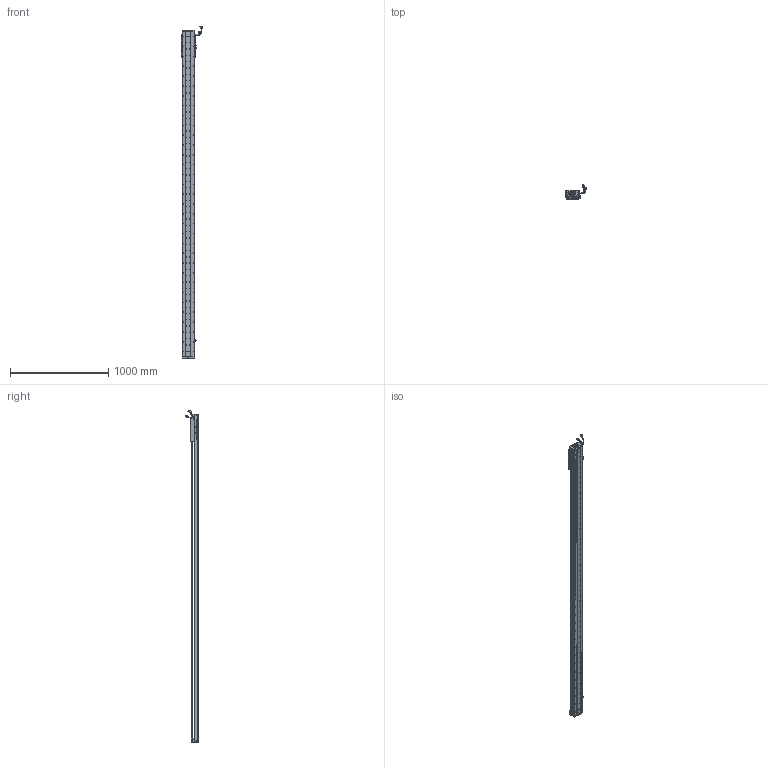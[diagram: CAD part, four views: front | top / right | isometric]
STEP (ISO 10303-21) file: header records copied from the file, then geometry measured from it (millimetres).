
FILE_DESCRIPTION (( 'STEP AP203' ), '1' );
FILE_NAME ('Z3-RY120D-1-L500-B-K.SLDASM_3000.step', '2021-05-17T05:52:10', ( '盈信电脑' ), ( '东莞市道滘镇水果街19号' ), 'SwSTEP 2.0', 'SolidWorks 2016', '' );
FILE_SCHEMA (( 'CONFIG_CONTROL_DESIGN' ));
Length unit declared in the file: millimetre
Products named in the file (37): 140雄赽晤鎢ん堤盄; SCALE-Part-2; Z3-RY120铝滑块（21款）; COVER; 榋妏寠巭燃_暯_M2_2; SCREW-M1.6-1; HARNESS; Z-RY120D詩湍奻揤裔; LABEL; 覜茼ん672; SCREW-M1.6; HARNESS-Part-1; SCREW-M1.7; 140蚥薯蝶輸; SCREW-M1.6-3; Z-120詩湍傷裔啣; SEAL-Part-1; 672嫖萇羲壽假蚾釱; HARNESS-Part-2; Z3-RY120D-1-L500-B-K.SLDASM_3000; Z3-RY120-500-倰第菁釱_3000; PBU_SHEET; COVER-Part-1; 120-Z-臏賑輸盄裔(21遴); PSLH080_PSLF2; SCALE-Part-1; SEAL; Z-RY120D詩湍狟揤裔; SCREW-M1.6-2; 080黍杅芛假蚾釱21遴; SHIELDPLATE; HOLDER0; RY100FB-遵嫖萇覜茼え; Z3-RY120-L500詩湍100mm遵_3000; SCREW-M1.7-1; SCALE; LABEL-Part-1
Assembly tree (43 placements, depth 4):
  Z3-RY120D-1-L500-B-K.SLDASM_3000
    Z3-RY120-500-倰第菁釱_3000
    覜茼ん672  x3
    672嫖萇羲壽假蚾釱  x2
    Z3-RY120铝滑块（21款）
    PSLH080_PSLF2
      SCALE
        SCALE-Part-1
        SCALE-Part-2
      HARNESS
        HARNESS-Part-1
        HARNESS-Part-2
      LABEL
        LABEL-Part-1
      COVER
        COVER-Part-1
      SEAL
        SEAL-Part-1
      榋妏寠巭燃_暯_M2_2
      SHIELDPLATE
      SCREW-M1.7
      SCREW-M1.7-1
      PBU_SHEET
      SCREW-M1.6
      SCREW-M1.6-1
      SCREW-M1.6-2
      SCREW-M1.6-3
      HOLDER0
    080黍杅芛假蚾釱21遴
    120-Z-臏賑輸盄裔(21遴)
    140雄赽晤鎢ん堤盄
    140蚥薯蝶輸  x2
    RY100FB-遵嫖萇覜茼え
    Z-120詩湍傷裔啣  x2
    Z-RY120D詩湍奻揤裔  x2
    Z-RY120D詩湍狟揤裔  x2
    Z3-RY120-L500詩湍100mm遵_3000
Bounding box: 222.83 x 140.94 x 3373.99 mm (x, y, z)
Volume: 7694438.6 mm3; surface area: 2710545.8 mm2
Topology: 38 solids, 38 shells, 4077 faces, 11787 edges, 7434 vertices
Faces by surface type: cylinder 2221, plane 1304, cone 430, torus 69, bspline 53
Entity records: 141098 total; most frequent: CARTESIAN_POINT 44627, ORIENTED_EDGE 20238, DIRECTION 18211, EDGE_CURVE 10119, AXIS2_PLACEMENT_3D 6756, VERTEX_POINT 6554, LINE 4699, VECTOR 4699
